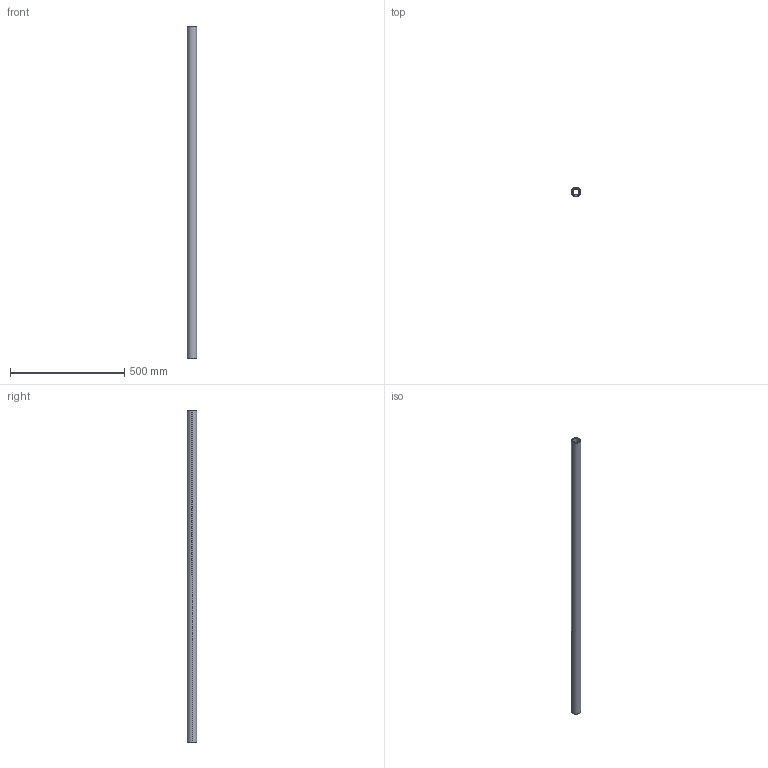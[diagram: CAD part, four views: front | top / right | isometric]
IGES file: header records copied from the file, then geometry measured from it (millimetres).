
Start section: SolidWorks IGES file using analytic representation for surfaces
Global section: file name: C:\Users\IanO\Desktop\L1771_v2\L1771.40_v2\L1771.40_v2_20230705_IGES\L1771.40-1450.igs; native system: SolidWorks 2019; preprocessor: SolidWorks 2019; author: IanO; date: 230705.160618; units: millimetre
Bounding box: 40 x 40 x 1450 mm (x, y, z)
Surface area: 311042.8 mm2 (no closed solid volume)
Topology: 0 solids, 0 shells, 6 faces, 272 edges, 272 vertices
Faces by surface type: revolution 4, bspline 2
